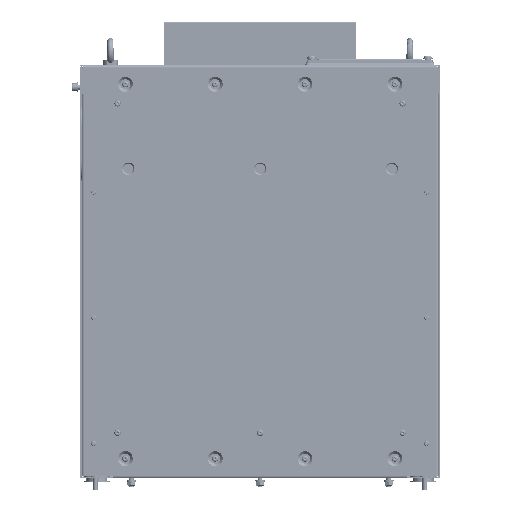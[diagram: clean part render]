
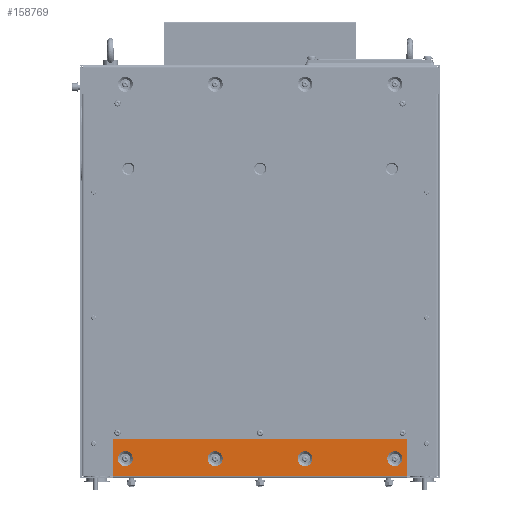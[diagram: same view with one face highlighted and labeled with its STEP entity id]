
A CAD part, left-side view. The second image highlights one B-rep face of the part: STEP entity #158769.
In plain terms, the highlighted planar face has unit normal (-1, 0, 0) as drawn and (0, 0, 1) by its records, which use the part's own axes.
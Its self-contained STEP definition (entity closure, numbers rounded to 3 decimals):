
#9493=FACE_BOUND('',#36858,.T.);
#9494=FACE_BOUND('',#36859,.T.);
#9495=FACE_BOUND('',#36860,.T.);
#9496=FACE_BOUND('',#36861,.T.);
#17646=CIRCLE('',#173416,12.5);
#17647=CIRCLE('',#173417,12.5);
#17658=CIRCLE('',#173433,12.5);
#17659=CIRCLE('',#173434,12.5);
#17670=CIRCLE('',#173450,12.5);
#17671=CIRCLE('',#173451,12.5);
#17682=CIRCLE('',#173467,12.5);
#17683=CIRCLE('',#173468,12.5);
#27333=FACE_OUTER_BOUND('',#36857,.T.);
#36857=EDGE_LOOP('',(#127603,#127604,#127605,#127606));
#36858=EDGE_LOOP('',(#127607,#127608));
#36859=EDGE_LOOP('',(#127609,#127610));
#36860=EDGE_LOOP('',(#127611,#127612));
#36861=EDGE_LOOP('',(#127613,#127614));
#47029=LINE('',#320228,#58719);
#47032=LINE('',#320234,#58722);
#47033=LINE('',#320236,#58723);
#47034=LINE('',#320237,#58724);
#58719=VECTOR('',#203576,3.02);
#58722=VECTOR('',#203581,10.);
#58723=VECTOR('',#203582,3.02);
#58724=VECTOR('',#203583,10.);
#73241=VERTEX_POINT('',#320097);
#73242=VERTEX_POINT('',#320098);
#73253=VERTEX_POINT('',#320129);
#73254=VERTEX_POINT('',#320130);
#73265=VERTEX_POINT('',#320161);
#73266=VERTEX_POINT('',#320162);
#73277=VERTEX_POINT('',#320193);
#73278=VERTEX_POINT('',#320194);
#73289=VERTEX_POINT('',#320225);
#73290=VERTEX_POINT('',#320227);
#73292=VERTEX_POINT('',#320233);
#73293=VERTEX_POINT('',#320235);
#92838=EDGE_CURVE('',#73241,#73242,#17646,.T.);
#92839=EDGE_CURVE('',#73242,#73241,#17647,.T.);
#92853=EDGE_CURVE('',#73253,#73254,#17658,.T.);
#92854=EDGE_CURVE('',#73254,#73253,#17659,.T.);
#92868=EDGE_CURVE('',#73265,#73266,#17670,.T.);
#92869=EDGE_CURVE('',#73266,#73265,#17671,.T.);
#92883=EDGE_CURVE('',#73277,#73278,#17682,.T.);
#92884=EDGE_CURVE('',#73278,#73277,#17683,.T.);
#92899=EDGE_CURVE('',#73289,#73290,#47029,.T.);
#92902=EDGE_CURVE('',#73289,#73292,#47032,.T.);
#92903=EDGE_CURVE('',#73292,#73293,#47033,.T.);
#92904=EDGE_CURVE('',#73293,#73290,#47034,.T.);
#127603=ORIENTED_EDGE('',*,*,#92902,.T.);
#127604=ORIENTED_EDGE('',*,*,#92903,.T.);
#127605=ORIENTED_EDGE('',*,*,#92904,.T.);
#127606=ORIENTED_EDGE('',*,*,#92899,.F.);
#127607=ORIENTED_EDGE('',*,*,#92838,.T.);
#127608=ORIENTED_EDGE('',*,*,#92839,.T.);
#127609=ORIENTED_EDGE('',*,*,#92853,.T.);
#127610=ORIENTED_EDGE('',*,*,#92854,.T.);
#127611=ORIENTED_EDGE('',*,*,#92868,.T.);
#127612=ORIENTED_EDGE('',*,*,#92869,.T.);
#127613=ORIENTED_EDGE('',*,*,#92883,.T.);
#127614=ORIENTED_EDGE('',*,*,#92884,.T.);
#152163=PLANE('',#173482);
#158769=ADVANCED_FACE('',(#27333,#9493,#9494,#9495,#9496),#152163,.F.);
#173416=AXIS2_PLACEMENT_3D('',#320099,#203429,#203430);
#173417=AXIS2_PLACEMENT_3D('',#320100,#203431,#203432);
#173433=AXIS2_PLACEMENT_3D('',#320131,#203466,#203467);
#173434=AXIS2_PLACEMENT_3D('',#320132,#203468,#203469);
#173450=AXIS2_PLACEMENT_3D('',#320163,#203503,#203504);
#173451=AXIS2_PLACEMENT_3D('',#320164,#203505,#203506);
#173467=AXIS2_PLACEMENT_3D('',#320195,#203540,#203541);
#173468=AXIS2_PLACEMENT_3D('',#320196,#203542,#203543);
#173482=AXIS2_PLACEMENT_3D('',#320232,#203579,#203580);
#203429=DIRECTION('center_axis',(0.,0.,
-1.));
#203430=DIRECTION('ref_axis',(0.,1.,0.));
#203431=DIRECTION('center_axis',(0.,0.,
-1.));
#203432=DIRECTION('ref_axis',(0.,1.,0.));
#203466=DIRECTION('center_axis',(0.,0.,
-1.));
#203467=DIRECTION('ref_axis',(0.,1.,0.));
#203468=DIRECTION('center_axis',(0.,0.,
-1.));
#203469=DIRECTION('ref_axis',(0.,1.,0.));
#203503=DIRECTION('center_axis',(0.,0.,
-1.));
#203504=DIRECTION('ref_axis',(0.,1.,0.));
#203505=DIRECTION('center_axis',(0.,0.,
-1.));
#203506=DIRECTION('ref_axis',(0.,1.,0.));
#203540=DIRECTION('center_axis',(0.,0.,
-1.));
#203541=DIRECTION('ref_axis',(0.,1.,0.));
#203542=DIRECTION('center_axis',(0.,0.,
-1.));
#203543=DIRECTION('ref_axis',(0.,1.,0.));
#203576=DIRECTION('',(1.,0.,0.));
#203579=DIRECTION('center_axis',(0.,0.,
-1.));
#203580=DIRECTION('ref_axis',(-1.,0.,0.));
#203581=DIRECTION('',(0.,-1.,0.));
#203582=DIRECTION('',(1.,0.,0.));
#203583=DIRECTION('',(0.,1.,0.));
#320097=CARTESIAN_POINT('',(33.,87.5,2.));
#320098=CARTESIAN_POINT('',(33.,62.5,2.));
#320099=CARTESIAN_POINT('Origin',(33.,75.,2.));
#320100=CARTESIAN_POINT('Origin',(33.,75.,2.));
#320129=CARTESIAN_POINT('',(33.,-62.5,2.));
#320130=CARTESIAN_POINT('',(33.,-87.5,2.));
#320131=CARTESIAN_POINT('Origin',(33.,-75.,2.));
#320132=CARTESIAN_POINT('Origin',(33.,-75.,2.));
#320161=CARTESIAN_POINT('',(33.,-212.5,2.));
#320162=CARTESIAN_POINT('',(33.,-237.5,2.));
#320163=CARTESIAN_POINT('Origin',(33.,-225.,2.));
#320164=CARTESIAN_POINT('Origin',(33.,-225.,2.));
#320193=CARTESIAN_POINT('',(33.,237.5,2.));
#320194=CARTESIAN_POINT('',(33.,212.5,2.));
#320195=CARTESIAN_POINT('Origin',(33.,225.,2.));
#320196=CARTESIAN_POINT('Origin',(33.,225.,2.));
#320225=CARTESIAN_POINT('',(4.,246.,2.));
#320227=CARTESIAN_POINT('',(65.,246.,2.));
#320228=CARTESIAN_POINT('',(-5.488,246.,2.));
#320232=CARTESIAN_POINT('Origin',(32.128,0.,
2.));
#320233=CARTESIAN_POINT('',(4.,-246.,2.));
#320234=CARTESIAN_POINT('',(4.,0.,2.));
#320235=CARTESIAN_POINT('',(65.,-246.,2.));
#320236=CARTESIAN_POINT('',(-5.488,-246.,2.));
#320237=CARTESIAN_POINT('',(65.,-246.,2.));
